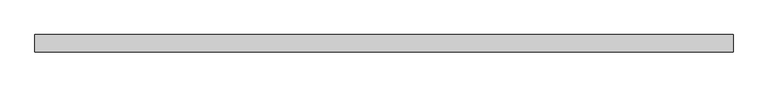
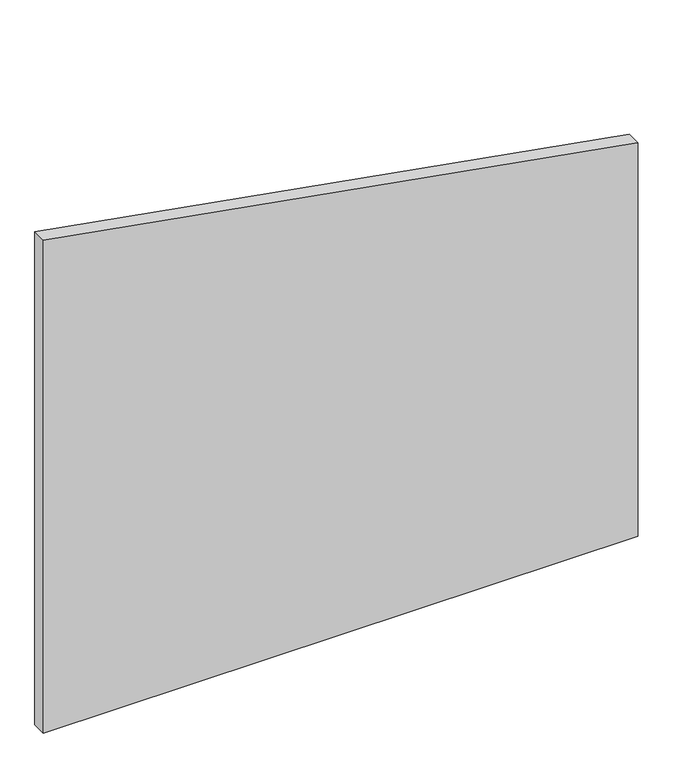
"""IFC4 building model written with IfcOpenShell, lengths in millimetres: plate geometry, 系統嵌板 : 有玻璃的."""

from ifc_helpers import new_model, si_unit, frame, origin, place, context, project, spatial, polyline, outline, extrude, source, transform, mapped, element, save


def plate_68810ae1(model_context):
    return source(origin(), model_context, "Body", "SweptSolid", [
        extrude(outline(polyline([(0.0, -503.3333333), (0.0, 503.3333333), (703.6730044, 503.3333333), (881.1754983, -503.3333333), (0.0, -503.3333333)])), frame((0.0, 24.5, 0.0), z_axis=(0.0, 1.0, 0.0), x_axis=(0.0, 0.0, 1.0)), (0.0, 0.0, 1.0), 25.0),
    ])


if __name__ == "__main__":
    model = new_model("IFC4")
    model_context = context("Model", 3, world=origin())
    ifc_project = project(units=[si_unit("LENGTHUNIT", "METRE", prefix="MILLI")], contexts=[model_context])
    site = spatial("IfcSite", under=ifc_project)
    building = spatial("IfcBuilding", under=site)
    placement = place(None, origin())
    plate_shape = plate_68810ae1(model_context)
    element("IfcPlate", 1, ObjectType="系統嵌板 : 有玻璃的", at=placement, inside=building, context=model_context, shape_type="MappedRepresentation", body=[
        mapped(plate_shape, transform((0.0, 0.0, 0.0), x_axis=(1.0, 0.0, 0.0), y_axis=(0.0, 1.0, 0.0), z_axis=(0.0, 0.0, 1.0))),
    ])
    save(model, "model.ifc")
